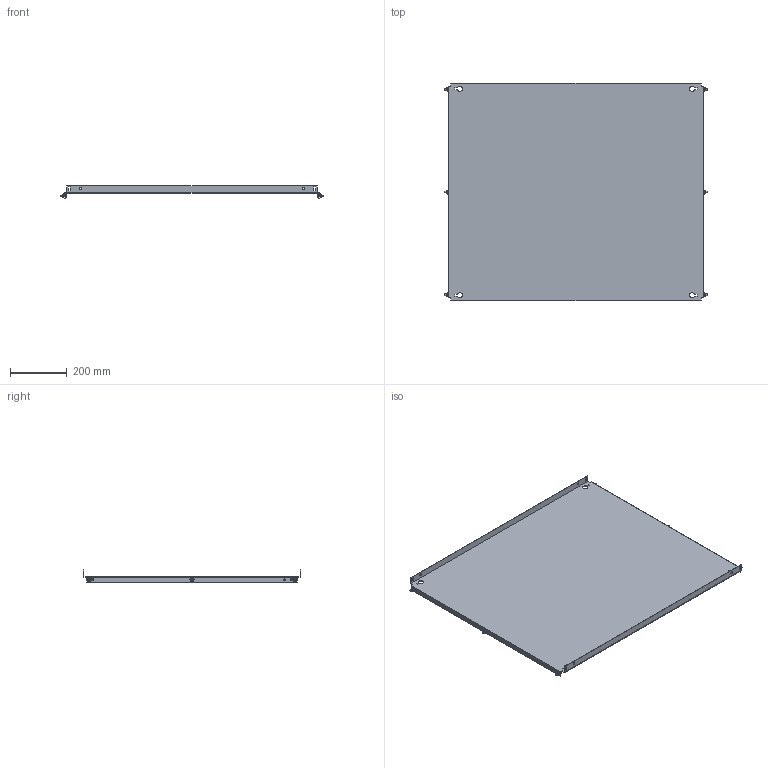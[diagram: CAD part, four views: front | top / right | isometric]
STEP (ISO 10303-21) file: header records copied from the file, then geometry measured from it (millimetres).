
FILE_DESCRIPTION(('Open CASCADE Model'),'2;1');
FILE_NAME('Open CASCADE Shape Model','2025-02-20T13:24:49',('Author'),( 'Open CASCADE'),'Open CASCADE STEP processor 7.8','Open CASCADE 7.8' ,'Unknown');
FILE_SCHEMA(('AUTOMOTIVE_DESIGN { 1 0 10303 214 1 1 1 1 }'));
Length unit declared in the file: millimetre
Products named in the file (4): Compound1; Solid1; Solid2; Solid3
Assembly tree (13 placements, depth 2):
  Compound1
    Solid1
    Solid2  x6
    Solid3  x6
Bounding box: 928 x 769 x 43 mm (x, y, z)
Volume: 1523980.6 mm3; surface area: 1531173.3 mm2
Topology: 13 solids, 13 shells, 422 faces, 1010 edges, 620 vertices
Faces by surface type: plane 192, cone 102, bspline 72, cylinder 38, torus 18
Full cylindrical faces by diameter (mm): 5 x6, 6 x12, 7 x16
Entity records: 5048 total; most frequent: CARTESIAN_POINT 1397, ORIENTED_EDGE 770, DIRECTION 664, EDGE_CURVE 385, VERTEX_POINT 250, AXIS2_PLACEMENT_3D 224, LINE 216, VECTOR 216
